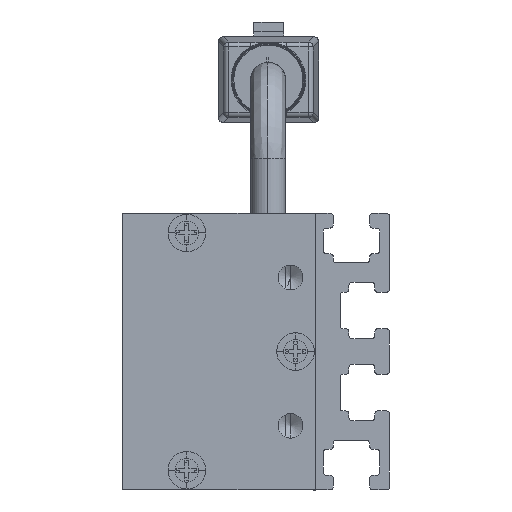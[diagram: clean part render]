
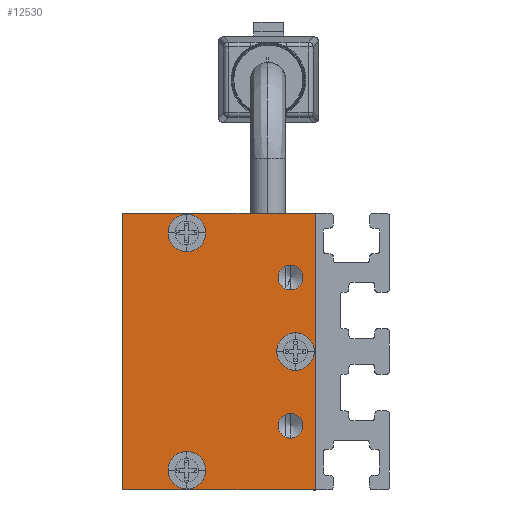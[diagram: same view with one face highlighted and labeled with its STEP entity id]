
A CAD part, left-side view. The second image highlights one B-rep face of the part: STEP entity #12530.
In plain terms, the highlighted planar face has unit normal (-1, 0, 0) as drawn and (0, 0, -1) by its records, which use the part's own axes.
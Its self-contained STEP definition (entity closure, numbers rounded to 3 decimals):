
#117 = AXIS2_PLACEMENT_3D ( 'NONE', #5423, #3226, #10760 ) ;
#212 = CIRCLE ( 'NONE', #13607, 1.25 ) ;
#354 = CARTESIAN_POINT ( 'NONE',  ( 0., 0., -2.5 ) ) ;
#467 = CIRCLE ( 'NONE', #6807, 1.25 ) ;
#485 = AXIS2_PLACEMENT_3D ( 'NONE', #4067, #4009, #7278 ) ;
#638 = CIRCLE ( 'NONE', #1073, 1.9 ) ;
#639 = ORIENTED_EDGE ( 'NONE', *, *, #5601, .F. ) ;
#752 = CARTESIAN_POINT ( 'NONE',  ( 13.9, 13., -2.5 ) ) ;
#876 = CIRCLE ( 'NONE', #6519, 1.25 ) ;
#916 = CIRCLE ( 'NONE', #485, 1.9 ) ;
#1023 = VERTEX_POINT ( 'NONE', #1907 ) ;
#1071 = EDGE_CURVE ( 'NONE', #1023, #5324, #4403, .T. ) ;
#1073 = AXIS2_PLACEMENT_3D ( 'NONE', #8727, #13899, #7748 ) ;
#1262 = DIRECTION ( 'NONE',  ( 0., 0., -1. ) ) ;
#1426 = VECTOR ( 'NONE', #13325, 1000. ) ;
#1529 = AXIS2_PLACEMENT_3D ( 'NONE', #6654, #1262, #5587 ) ;
#1576 = VERTEX_POINT ( 'NONE', #10879 ) ;
#1816 = ORIENTED_EDGE ( 'NONE', *, *, #1071, .F. ) ;
#1821 = DIRECTION ( 'NONE',  ( 0., 0., -1. ) ) ;
#1905 = DIRECTION ( 'NONE',  ( -1., 0., 0. ) ) ;
#1907 = CARTESIAN_POINT ( 'NONE',  ( -1.9, 2., -2.5 ) ) ;
#2139 = CARTESIAN_POINT ( 'NONE',  ( 14., 19.5, -2.5 ) ) ;
#2373 = DIRECTION ( 'NONE',  ( 0., 0., -1. ) ) ;
#2406 = EDGE_LOOP ( 'NONE', ( #1816, #5695 ) ) ;
#2457 = CARTESIAN_POINT ( 'NONE',  ( -14., 19.5, -2.5 ) ) ;
#2466 = EDGE_CURVE ( 'NONE', #1576, #3267, #5311, .T. ) ;
#2554 = DIRECTION ( 'NONE',  ( 0., 0., -1. ) ) ;
#2569 = ORIENTED_EDGE ( 'NONE', *, *, #10069, .F. ) ;
#2618 = EDGE_LOOP ( 'NONE', ( #8317, #13484 ) ) ;
#2691 = ORIENTED_EDGE ( 'NONE', *, *, #3301, .F. ) ;
#2757 = FACE_OUTER_BOUND ( 'NONE', #13796, .T. ) ;
#2861 = DIRECTION ( 'NONE',  ( -1., 0., 0. ) ) ;
#2928 = CIRCLE ( 'NONE', #13828, 1.25 ) ;
#2959 = EDGE_CURVE ( 'NONE', #9924, #5102, #638, .T. ) ;
#2963 = VECTOR ( 'NONE', #12391, 1000. ) ;
#3017 = DIRECTION ( 'NONE',  ( -1., 0., 0. ) ) ;
#3027 = CARTESIAN_POINT ( 'NONE',  ( 6.25, 2.5, -2.5 ) ) ;
#3055 = EDGE_CURVE ( 'NONE', #5102, #9924, #7636, .T. ) ;
#3129 = EDGE_LOOP ( 'NONE', ( #12220, #11809 ) ) ;
#3226 = DIRECTION ( 'NONE',  ( 0., 0., -1. ) ) ;
#3243 = CARTESIAN_POINT ( 'NONE',  ( -13.9, 13., -2.5 ) ) ;
#3267 = VERTEX_POINT ( 'NONE', #4626 ) ;
#3301 = EDGE_CURVE ( 'NONE', #8574, #12122, #876, .T. ) ;
#3405 = CARTESIAN_POINT ( 'NONE',  ( 0., 2., -2.5 ) ) ;
#3413 = CARTESIAN_POINT ( 'NONE',  ( 7.5, 2.5, -2.5 ) ) ;
#3431 = CARTESIAN_POINT ( 'NONE',  ( -10.1, 13., -2.5 ) ) ;
#3774 = CARTESIAN_POINT ( 'NONE',  ( -14., 0., -2.5 ) ) ;
#3923 = DIRECTION ( 'NONE',  ( 0., -1., 0. ) ) ;
#4009 = DIRECTION ( 'NONE',  ( 0., 0., -1. ) ) ;
#4067 = CARTESIAN_POINT ( 'NONE',  ( 12., 13., -2.5 ) ) ;
#4075 = CARTESIAN_POINT ( 'NONE',  ( 7.5, 2.5, -2.5 ) ) ;
#4403 = CIRCLE ( 'NONE', #117, 1.9 ) ;
#4626 = CARTESIAN_POINT ( 'NONE',  ( 14., 0., -2.5 ) ) ;
#4678 = ORIENTED_EDGE ( 'NONE', *, *, #9188, .F. ) ;
#4837 = LINE ( 'NONE', #3774, #10703 ) ;
#4878 = VERTEX_POINT ( 'NONE', #3027 ) ;
#4912 = LINE ( 'NONE', #8954, #2963 ) ;
#5102 = VERTEX_POINT ( 'NONE', #3431 ) ;
#5230 = CARTESIAN_POINT ( 'NONE',  ( 10.1, 13., -2.5 ) ) ;
#5288 = EDGE_CURVE ( 'NONE', #11480, #7055, #916, .T. ) ;
#5311 = LINE ( 'NONE', #9566, #7570 ) ;
#5324 = VERTEX_POINT ( 'NONE', #13604 ) ;
#5423 = CARTESIAN_POINT ( 'NONE',  ( 0., 2., -2.5 ) ) ;
#5587 = DIRECTION ( 'NONE',  ( -1., 0., 0. ) ) ;
#5601 = EDGE_CURVE ( 'NONE', #12122, #8574, #2928, .T. ) ;
#5695 = ORIENTED_EDGE ( 'NONE', *, *, #9103, .F. ) ;
#5757 = DIRECTION ( 'NONE',  ( 0., 0., -1. ) ) ;
#5956 = FACE_BOUND ( 'NONE', #2406, .T. ) ;
#6023 = ORIENTED_EDGE ( 'NONE', *, *, #2466, .F. ) ;
#6310 = CARTESIAN_POINT ( 'NONE',  ( 8.75, 2.5, -2.5 ) ) ;
#6378 = CARTESIAN_POINT ( 'NONE',  ( -14., 19.5, -2.5 ) ) ;
#6389 = CIRCLE ( 'NONE', #12970, 1.9 ) ;
#6482 = DIRECTION ( 'NONE',  ( -1., 0., 0. ) ) ;
#6519 = AXIS2_PLACEMENT_3D ( 'NONE', #7767, #2373, #2861 ) ;
#6654 = CARTESIAN_POINT ( 'NONE',  ( -12., 13., -2.5 ) ) ;
#6669 = ORIENTED_EDGE ( 'NONE', *, *, #7796, .F. ) ;
#6730 = EDGE_CURVE ( 'NONE', #10940, #4878, #212, .T. ) ;
#6807 = AXIS2_PLACEMENT_3D ( 'NONE', #4075, #1821, #3017 ) ;
#6955 = FACE_BOUND ( 'NONE', #12288, .T. ) ;
#7055 = VERTEX_POINT ( 'NONE', #752 ) ;
#7178 = ORIENTED_EDGE ( 'NONE', *, *, #6730, .F. ) ;
#7278 = DIRECTION ( 'NONE',  ( -1., 0., 0. ) ) ;
#7570 = VECTOR ( 'NONE', #13841, 1000. ) ;
#7636 = CIRCLE ( 'NONE', #1529, 1.9 ) ;
#7648 = EDGE_LOOP ( 'NONE', ( #6669, #7178 ) ) ;
#7748 = DIRECTION ( 'NONE',  ( -1., 0., 0. ) ) ;
#7767 = CARTESIAN_POINT ( 'NONE',  ( -7.5, 2.5, -2.5 ) ) ;
#7796 = EDGE_CURVE ( 'NONE', #4878, #10940, #467, .T. ) ;
#8063 = EDGE_CURVE ( 'NONE', #3267, #10644, #4912, .T. ) ;
#8317 = ORIENTED_EDGE ( 'NONE', *, *, #5288, .F. ) ;
#8574 = VERTEX_POINT ( 'NONE', #13082 ) ;
#8727 = CARTESIAN_POINT ( 'NONE',  ( -12., 13., -2.5 ) ) ;
#8954 = CARTESIAN_POINT ( 'NONE',  ( 14., 19.5, -2.5 ) ) ;
#9039 = CIRCLE ( 'NONE', #9954, 1.9 ) ;
#9103 = EDGE_CURVE ( 'NONE', #5324, #1023, #6389, .T. ) ;
#9188 = EDGE_CURVE ( 'NONE', #9755, #1576, #4837, .T. ) ;
#9289 = CARTESIAN_POINT ( 'NONE',  ( -7.5, 2.5, -2.5 ) ) ;
#9446 = ORIENTED_EDGE ( 'NONE', *, *, #8063, .F. ) ;
#9566 = CARTESIAN_POINT ( 'NONE',  ( 14., 0., -2.5 ) ) ;
#9603 = CARTESIAN_POINT ( 'NONE',  ( -8.75, 2.5, -2.5 ) ) ;
#9755 = VERTEX_POINT ( 'NONE', #6378 ) ;
#9924 = VERTEX_POINT ( 'NONE', #3243 ) ;
#9954 = AXIS2_PLACEMENT_3D ( 'NONE', #11633, #13901, #1905 ) ;
#10019 = DIRECTION ( 'NONE',  ( -1., 0., 0. ) ) ;
#10067 = FACE_BOUND ( 'NONE', #7648, .T. ) ;
#10069 = EDGE_CURVE ( 'NONE', #10644, #9755, #11271, .T. ) ;
#10213 = DIRECTION ( 'NONE',  ( -1., 0., 0. ) ) ;
#10290 = PLANE ( 'NONE',  #12083 ) ;
#10644 = VERTEX_POINT ( 'NONE', #2139 ) ;
#10703 = VECTOR ( 'NONE', #3923, 1000. ) ;
#10760 = DIRECTION ( 'NONE',  ( -1., 0., 0. ) ) ;
#10879 = CARTESIAN_POINT ( 'NONE',  ( -14., 0., -2.5 ) ) ;
#10940 = VERTEX_POINT ( 'NONE', #6310 ) ;
#11271 = LINE ( 'NONE', #2457, #1426 ) ;
#11446 = DIRECTION ( 'NONE',  ( 0., 0., -1. ) ) ;
#11480 = VERTEX_POINT ( 'NONE', #5230 ) ;
#11633 = CARTESIAN_POINT ( 'NONE',  ( 12., 13., -2.5 ) ) ;
#11809 = ORIENTED_EDGE ( 'NONE', *, *, #3055, .F. ) ;
#11830 = DIRECTION ( 'NONE',  ( 0., 0., -1. ) ) ;
#12083 = AXIS2_PLACEMENT_3D ( 'NONE', #354, #2554, #10213 ) ;
#12122 = VERTEX_POINT ( 'NONE', #9603 ) ;
#12205 = FACE_BOUND ( 'NONE', #2618, .T. ) ;
#12220 = ORIENTED_EDGE ( 'NONE', *, *, #2959, .F. ) ;
#12288 = EDGE_LOOP ( 'NONE', ( #639, #2691 ) ) ;
#12391 = DIRECTION ( 'NONE',  ( 0., 1., 0. ) ) ;
#12495 = FACE_BOUND ( 'NONE', #3129, .T. ) ;
#12530 = ADVANCED_FACE ( 'NONE', ( #12205, #12495, #5956, #10067, #6955, #2757 ), #10290, .T. ) ;
#12970 = AXIS2_PLACEMENT_3D ( 'NONE', #3405, #5757, #10019 ) ;
#13082 = CARTESIAN_POINT ( 'NONE',  ( -6.25, 2.5, -2.5 ) ) ;
#13325 = DIRECTION ( 'NONE',  ( -1., 0., 0. ) ) ;
#13484 = ORIENTED_EDGE ( 'NONE', *, *, #13913, .F. ) ;
#13504 = DIRECTION ( 'NONE',  ( -1., 0., 0. ) ) ;
#13604 = CARTESIAN_POINT ( 'NONE',  ( 1.9, 2., -2.5 ) ) ;
#13607 = AXIS2_PLACEMENT_3D ( 'NONE', #3413, #11830, #6482 ) ;
#13796 = EDGE_LOOP ( 'NONE', ( #9446, #6023, #4678, #2569 ) ) ;
#13828 = AXIS2_PLACEMENT_3D ( 'NONE', #9289, #11446, #13504 ) ;
#13841 = DIRECTION ( 'NONE',  ( 1., 0., 0. ) ) ;
#13899 = DIRECTION ( 'NONE',  ( 0., 0., -1. ) ) ;
#13901 = DIRECTION ( 'NONE',  ( 0., 0., -1. ) ) ;
#13913 = EDGE_CURVE ( 'NONE', #7055, #11480, #9039, .T. ) ;
